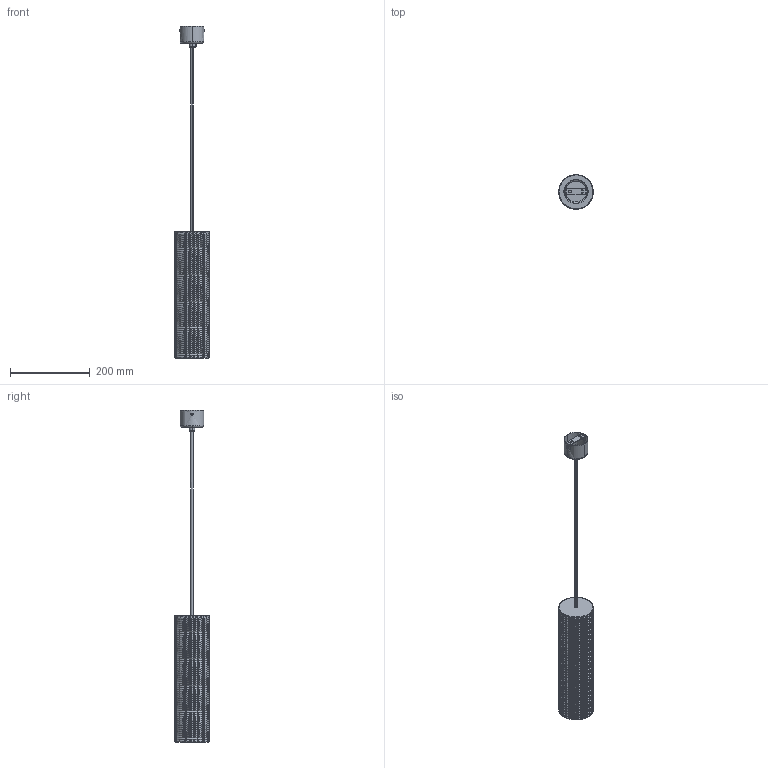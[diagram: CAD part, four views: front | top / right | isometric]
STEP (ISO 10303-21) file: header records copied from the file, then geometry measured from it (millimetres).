
FILE_DESCRIPTION(/* description */ (''),/* implementation_level */ '2;1');
FILE_NAME(/* name */ 'Clio L094__.000',/* time_stamp */ '2025-05-29T16:27:46+02:00',/* author */ (''),/* organization */ (''),/* preprocessor_version */ 'ST-DEVELOPER v16.5',/* originating_system */ '',/* authorisation */ '');
FILE_SCHEMA (('AUTOMOTIVE_DESIGN'));
Products named in the file (1): Document
Bounding box: 87 x 87 x 831.15 mm (x, y, z)
Volume: 218634.8 mm3; surface area: 325378.4 mm2
Topology: 16 solids, 34 shells, 2569 faces, 6869 edges, 4312 vertices
Faces by surface type: bspline 2008, plane 561
Entity records: 379955 total; most frequent: CARTESIAN_POINT 341830, ORIENTED_EDGE 13370, EDGE_CURVE 6836, VERTEX_POINT 4313, B_SPLINE_CURVE_WITH_KNOTS 3672, EDGE_LOOP 2646, ADVANCED_FACE 2567, FACE_OUTER_BOUND 2567
